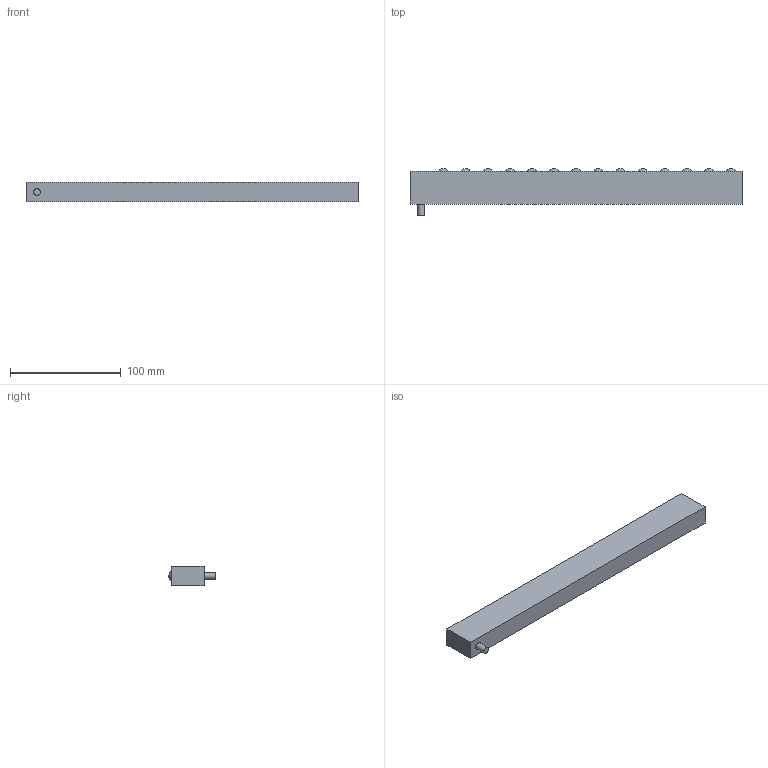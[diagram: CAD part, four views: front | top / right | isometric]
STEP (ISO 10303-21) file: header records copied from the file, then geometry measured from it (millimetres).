
FILE_DESCRIPTION(/* description */ (''),/* implementation_level */ '2;1');
FILE_NAME(/* name */ 'V:\Shrinkwrap\EMB\EMB - SHRINKWRAP\EMB18-14_Shrinkwrap_1.stp',/* time_stamp */ '2022-08-12T10:01:32+02:00',/* author */ ('cw'),/* organization */ (''),/* preprocessor_version */ 'ST-DEVELOPER v17',/* originating_system */ 'Autodesk Inventor 2019',/* authorisation */ '');
FILE_SCHEMA (('AUTOMOTIVE_DESIGN { 1 0 10303 214 3 1 1 }'));
Length unit declared in the file: millimetre
Products named in the file (1): EMB18-14_Shrinkwrap_1
Bounding box: 300 x 42.27 x 17.8 mm (x, y, z)
Volume: 158928.4 mm3; surface area: 31310.4 mm2
Topology: 1 solids, 1 shells, 28 faces, 42 edges, 36 vertices
Faces by surface type: sphere 14, plane 10, cylinder 4
Full cylindrical faces by diameter (mm): 6 x1, 6.5 x1, 10 x1, 11 x1
Entity records: 742 total; most frequent: DIRECTION 122, CARTESIAN_POINT 105, ORIENTED_EDGE 80, AXIS2_PLACEMENT_3D 53, EDGE_LOOP 46, EDGE_CURVE 40, VERTEX_POINT 32, STYLED_ITEM 31
